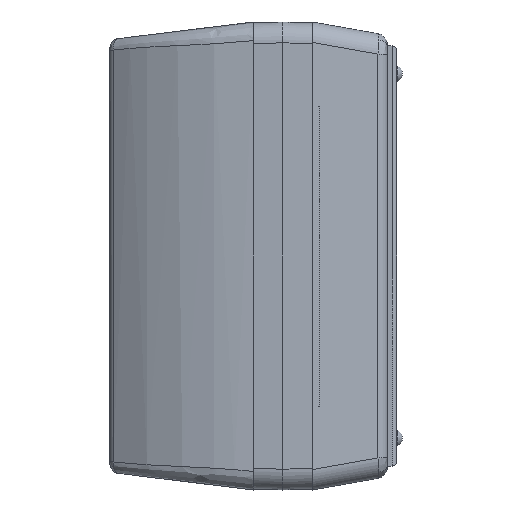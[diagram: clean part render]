
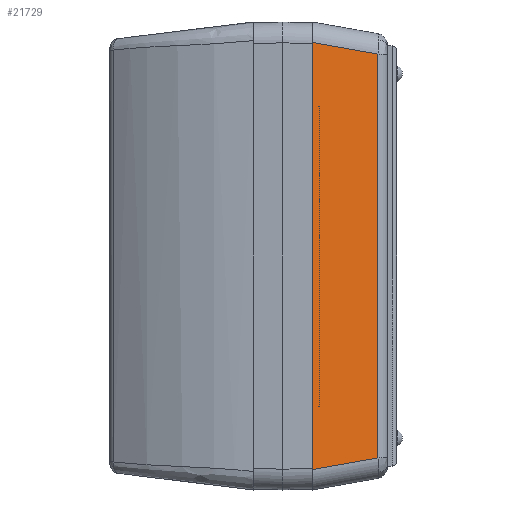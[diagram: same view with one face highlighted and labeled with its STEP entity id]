
A CAD part, left-side view. The second image highlights one B-rep face of the part: STEP entity #21729.
In plain terms, the highlighted planar face has unit normal (-0.985, -0.174, 0).
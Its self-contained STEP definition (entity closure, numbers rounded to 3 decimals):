
#841 = ORIENTED_EDGE ( 'NONE', *, *, #24043, .F. ) ;
#2013 = CARTESIAN_POINT ( 'NONE',  ( -92.462, -16.097, -43.43 ) ) ;
#2208 = LINE ( 'NONE', #2013, #22091 ) ;
#2881 = AXIS2_PLACEMENT_3D ( 'NONE', #16701, #5171, #18657 ) ;
#3967 = DIRECTION ( 'NONE',  ( 0.171, -0.97, 0.171 ) ) ;
#5171 = DIRECTION ( 'NONE',  ( -0.985, -0.174, 0. ) ) ;
#5392 = CARTESIAN_POINT ( 'NONE',  ( -92.79, -14.234, 47.826 ) ) ;
#6764 = VECTOR ( 'NONE', #15028, 1000. ) ;
#7052 = ORIENTED_EDGE ( 'NONE', *, *, #17568, .T. ) ;
#7661 = DIRECTION ( 'NONE',  ( 0., 0., 1. ) ) ;
#9040 = VERTEX_POINT ( 'NONE', #20544 ) ;
#9200 = VERTEX_POINT ( 'NONE', #13395 ) ;
#9252 = EDGE_CURVE ( 'NONE', #15617, #9040, #2208, .T. ) ;
#9448 = EDGE_LOOP ( 'NONE', ( #841, #21331, #18737, #7052 ) ) ;
#12083 = VERTEX_POINT ( 'NONE', #13314 ) ;
#12818 = PLANE ( 'NONE',  #2881 ) ;
#13090 = CARTESIAN_POINT ( 'NONE',  ( -95.3, 0., 50.7 ) ) ;
#13314 = CARTESIAN_POINT ( 'NONE',  ( -92.79, -14.234, 43.759 ) ) ;
#13395 = CARTESIAN_POINT ( 'NONE',  ( -95.3, 0., 46.268 ) ) ;
#14372 = LINE ( 'NONE', #22953, #18869 ) ;
#15028 = DIRECTION ( 'NONE',  ( 0., 0., 1. ) ) ;
#15617 = VERTEX_POINT ( 'NONE', #22756 ) ;
#16701 = CARTESIAN_POINT ( 'NONE',  ( -95.3, 0., 50.7 ) ) ;
#17568 = EDGE_CURVE ( 'NONE', #12083, #9200, #14372, .T. ) ;
#18608 = VECTOR ( 'NONE', #7661, 1000. ) ;
#18657 = DIRECTION ( 'NONE',  ( 0.174, -0.985, 0. ) ) ;
#18737 = ORIENTED_EDGE ( 'NONE', *, *, #22354, .T. ) ;
#18869 = VECTOR ( 'NONE', #19148, 1000. ) ;
#19148 = DIRECTION ( 'NONE',  ( -0.171, 0.97, 0.171 ) ) ;
#20544 = CARTESIAN_POINT ( 'NONE',  ( -92.79, -14.234, -43.759 ) ) ;
#21331 = ORIENTED_EDGE ( 'NONE', *, *, #9252, .T. ) ;
#21729 = ADVANCED_FACE ( 'NONE', ( #23483 ), #12818, .T. ) ;
#22091 = VECTOR ( 'NONE', #3967, 1000. ) ;
#22161 = LINE ( 'NONE', #13090, #6764 ) ;
#22354 = EDGE_CURVE ( 'NONE', #9040, #12083, #23746, .T. ) ;
#22756 = CARTESIAN_POINT ( 'NONE',  ( -95.3, 0., -46.268 ) ) ;
#22953 = CARTESIAN_POINT ( 'NONE',  ( -95.43, 0.736, 46.398 ) ) ;
#23483 = FACE_OUTER_BOUND ( 'NONE', #9448, .T. ) ;
#23746 = LINE ( 'NONE', #5392, #18608 ) ;
#24043 = EDGE_CURVE ( 'NONE', #15617, #9200, #22161, .T. ) ;
